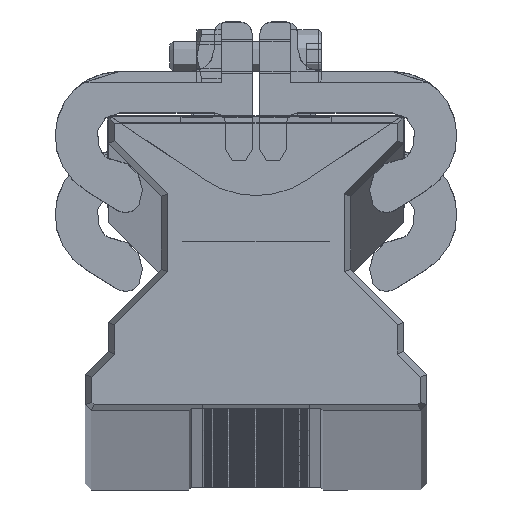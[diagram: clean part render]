
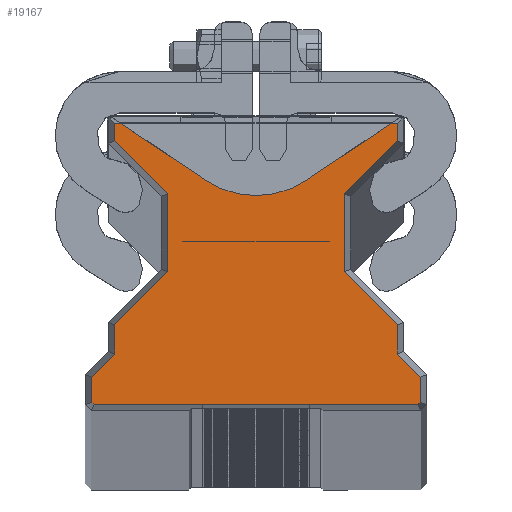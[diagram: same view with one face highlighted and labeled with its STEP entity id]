
A CAD part, top view. The second image highlights one B-rep face of the part: STEP entity #19167.
In plain terms, the highlighted planar face has unit normal (0, 0, 1).
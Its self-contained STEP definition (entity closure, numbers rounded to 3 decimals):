
#7046=DIRECTION('',(1.,0.,0.));
#7047=VECTOR('',#7046,42.696);
#7048=CARTESIAN_POINT('',(-21.348,0.85,0.));
#7049=LINE('',#7048,#7047);
#7050=DIRECTION('',(0.707,-0.707,0.));
#7051=VECTOR('',#7050,0.427);
#7052=CARTESIAN_POINT('',(-21.65,1.152,0.));
#7053=LINE('',#7052,#7051);
#7054=DIRECTION('',(0.,-1.,0.));
#7055=VECTOR('',#7054,3.3);
#7056=CARTESIAN_POINT('',(-21.65,4.452,0.));
#7057=LINE('',#7056,#7055);
#7058=DIRECTION('',(0.701,0.713,0.));
#7059=VECTOR('',#7058,4.281);
#7060=CARTESIAN_POINT('',(-21.65,4.452,0.));
#7061=LINE('',#7060,#7059);
#7062=DIRECTION('',(0.,-1.,0.));
#7063=VECTOR('',#7062,3.841);
#7064=CARTESIAN_POINT('',(-18.65,11.348,0.));
#7065=LINE('',#7064,#7063);
#7066=DIRECTION('',(-0.707,-0.707,0.));
#7067=VECTOR('',#7066,9.899);
#7068=CARTESIAN_POINT('',(-11.65,18.348,0.));
#7069=LINE('',#7068,#7067);
#7070=DIRECTION('',(0.,-1.,0.));
#7071=VECTOR('',#7070,10.304);
#7072=CARTESIAN_POINT('',(-11.65,28.652,0.));
#7073=LINE('',#7072,#7071);
#7074=DIRECTION('',(0.707,-0.707,0.));
#7075=VECTOR('',#7074,9.899);
#7076=CARTESIAN_POINT('',(-18.65,35.652,0.));
#7077=LINE('',#7076,#7075);
#7078=DIRECTION('',(0.,-1.,0.));
#7079=VECTOR('',#7078,2.298);
#7080=CARTESIAN_POINT('',(-18.65,37.95,0.));
#7081=LINE('',#7080,#7079);
#7082=DIRECTION('',(-1.,0.,0.));
#7083=VECTOR('',#7082,37.3);
#7084=CARTESIAN_POINT('',(18.65,37.95,0.));
#7085=LINE('',#7084,#7083);
#7086=DIRECTION('',(0.,1.,0.));
#7087=VECTOR('',#7086,2.298);
#7088=CARTESIAN_POINT('',(18.65,35.652,0.));
#7089=LINE('',#7088,#7087);
#7090=DIRECTION('',(-0.707,-0.707,0.));
#7091=VECTOR('',#7090,9.899);
#7092=CARTESIAN_POINT('',(18.65,35.652,0.));
#7093=LINE('',#7092,#7091);
#7094=DIRECTION('',(0.,1.,0.));
#7095=VECTOR('',#7094,10.304);
#7096=CARTESIAN_POINT('',(11.65,18.348,0.));
#7097=LINE('',#7096,#7095);
#7098=DIRECTION('',(-0.707,0.707,0.));
#7099=VECTOR('',#7098,9.899);
#7100=CARTESIAN_POINT('',(18.65,11.348,0.));
#7101=LINE('',#7100,#7099);
#7102=DIRECTION('',(0.,1.,0.));
#7103=VECTOR('',#7102,3.841);
#7104=CARTESIAN_POINT('',(18.65,7.507,0.));
#7105=LINE('',#7104,#7103);
#7106=DIRECTION('',(-0.701,0.713,0.));
#7107=VECTOR('',#7106,4.281);
#7108=CARTESIAN_POINT('',(21.65,4.452,0.));
#7109=LINE('',#7108,#7107);
#7110=DIRECTION('',(0.,1.,0.));
#7111=VECTOR('',#7110,3.3);
#7112=CARTESIAN_POINT('',(21.65,1.152,0.));
#7113=LINE('',#7112,#7111);
#7114=DIRECTION('',(0.707,0.707,0.));
#7115=VECTOR('',#7114,0.427);
#7116=CARTESIAN_POINT('',(21.348,0.85,0.));
#7117=LINE('',#7116,#7115);
#7494=CARTESIAN_POINT('',(-21.348,0.85,0.));
#7495=CARTESIAN_POINT('',(21.348,0.85,0.));
#7496=VERTEX_POINT('',#7494);
#7497=VERTEX_POINT('',#7495);
#7498=CARTESIAN_POINT('',(21.65,1.152,0.));
#7499=VERTEX_POINT('',#7498);
#7500=CARTESIAN_POINT('',(21.65,4.452,0.));
#7501=VERTEX_POINT('',#7500);
#7502=CARTESIAN_POINT('',(18.65,7.507,0.));
#7503=VERTEX_POINT('',#7502);
#7504=CARTESIAN_POINT('',(18.65,11.348,0.));
#7505=VERTEX_POINT('',#7504);
#7506=CARTESIAN_POINT('',(11.65,18.348,0.));
#7507=VERTEX_POINT('',#7506);
#7508=CARTESIAN_POINT('',(11.65,28.652,0.));
#7509=VERTEX_POINT('',#7508);
#7510=CARTESIAN_POINT('',(18.65,35.652,0.));
#7511=VERTEX_POINT('',#7510);
#7512=CARTESIAN_POINT('',(18.65,37.95,0.));
#7513=VERTEX_POINT('',#7512);
#7514=CARTESIAN_POINT('',(-18.65,37.95,0.));
#7515=VERTEX_POINT('',#7514);
#7516=CARTESIAN_POINT('',(-18.65,35.652,0.));
#7517=VERTEX_POINT('',#7516);
#7518=CARTESIAN_POINT('',(-11.65,28.652,0.));
#7519=VERTEX_POINT('',#7518);
#7520=CARTESIAN_POINT('',(-11.65,18.348,0.));
#7521=VERTEX_POINT('',#7520);
#7522=CARTESIAN_POINT('',(-18.65,11.348,0.));
#7523=VERTEX_POINT('',#7522);
#7524=CARTESIAN_POINT('',(-18.65,7.507,0.));
#7525=VERTEX_POINT('',#7524);
#7526=CARTESIAN_POINT('',(-21.65,4.452,0.));
#7527=VERTEX_POINT('',#7526);
#9254=CARTESIAN_POINT('',(-21.65,1.152,0.));
#9255=VERTEX_POINT('',#9254);
#19125=CARTESIAN_POINT('',(0.,0.,0.));
#19126=DIRECTION('',(0.,0.,1.));
#19127=DIRECTION('',(1.,0.,0.));
#19128=AXIS2_PLACEMENT_3D('',#19125,#19126,#19127);
#19129=PLANE('',#19128);
#19131=ORIENTED_EDGE('',*,*,#19130,.F.);
#19133=ORIENTED_EDGE('',*,*,#19132,.F.);
#19135=ORIENTED_EDGE('',*,*,#19134,.F.);
#19137=ORIENTED_EDGE('',*,*,#19136,.T.);
#19139=ORIENTED_EDGE('',*,*,#19138,.F.);
#19141=ORIENTED_EDGE('',*,*,#19140,.F.);
#19143=ORIENTED_EDGE('',*,*,#19142,.F.);
#19144=ORIENTED_EDGE('',*,*,#19115,.F.);
#19146=ORIENTED_EDGE('',*,*,#19145,.F.);
#19148=ORIENTED_EDGE('',*,*,#19147,.F.);
#19150=ORIENTED_EDGE('',*,*,#19149,.F.);
#19152=ORIENTED_EDGE('',*,*,#19151,.T.);
#19154=ORIENTED_EDGE('',*,*,#19153,.F.);
#19156=ORIENTED_EDGE('',*,*,#19155,.F.);
#19158=ORIENTED_EDGE('',*,*,#19157,.F.);
#19160=ORIENTED_EDGE('',*,*,#19159,.F.);
#19162=ORIENTED_EDGE('',*,*,#19161,.F.);
#19164=ORIENTED_EDGE('',*,*,#19163,.F.);
#19165=EDGE_LOOP('',(#19131,#19133,#19135,#19137,#19139,#19141,#19143,#19144,
#19146,#19148,#19150,#19152,#19154,#19156,#19158,#19160,#19162,#19164));
#19166=FACE_OUTER_BOUND('',#19165,.F.);
#19115=EDGE_CURVE('',#7517,#7519,#7077,.T.);
#19130=EDGE_CURVE('',#7496,#7497,#7049,.T.);
#19132=EDGE_CURVE('',#9255,#7496,#7053,.T.);
#19134=EDGE_CURVE('',#7527,#9255,#7057,.T.);
#19136=EDGE_CURVE('',#7527,#7525,#7061,.T.);
#19138=EDGE_CURVE('',#7523,#7525,#7065,.T.);
#19140=EDGE_CURVE('',#7521,#7523,#7069,.T.);
#19142=EDGE_CURVE('',#7519,#7521,#7073,.T.);
#19145=EDGE_CURVE('',#7515,#7517,#7081,.T.);
#19147=EDGE_CURVE('',#7513,#7515,#7085,.T.);
#19149=EDGE_CURVE('',#7511,#7513,#7089,.T.);
#19151=EDGE_CURVE('',#7511,#7509,#7093,.T.);
#19153=EDGE_CURVE('',#7507,#7509,#7097,.T.);
#19155=EDGE_CURVE('',#7505,#7507,#7101,.T.);
#19157=EDGE_CURVE('',#7503,#7505,#7105,.T.);
#19159=EDGE_CURVE('',#7501,#7503,#7109,.T.);
#19161=EDGE_CURVE('',#7499,#7501,#7113,.T.);
#19163=EDGE_CURVE('',#7497,#7499,#7117,.T.);
#19167=ADVANCED_FACE('',(#19166),#19129,.T.);
